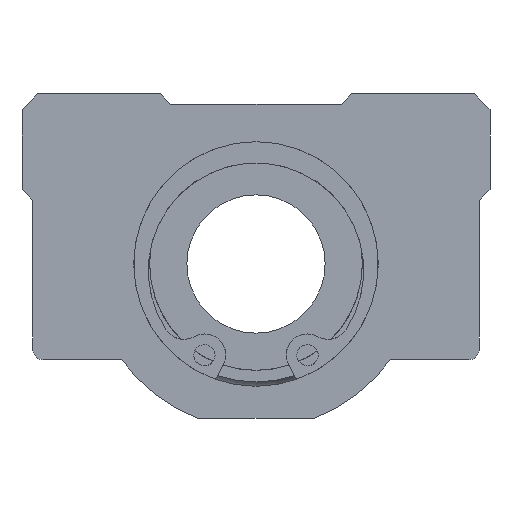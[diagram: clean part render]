
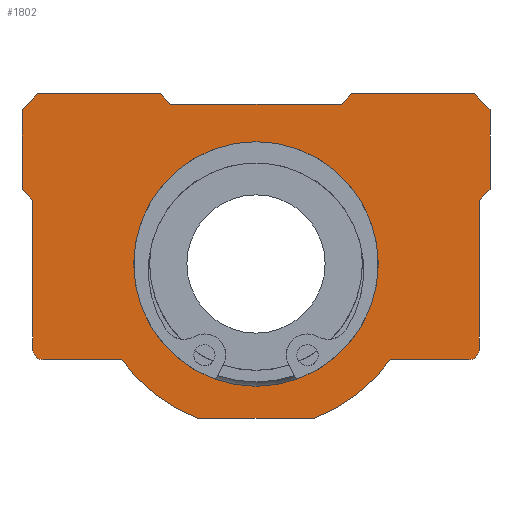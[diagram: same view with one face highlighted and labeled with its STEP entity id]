
A CAD part, left-side view. The second image highlights one B-rep face of the part: STEP entity #1802.
In plain terms, the highlighted planar face has unit normal (-1, 0, 0).
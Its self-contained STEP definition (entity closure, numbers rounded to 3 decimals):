
#1370=CARTESIAN_POINT('',(0.0,20.,-9.));
#1371=VERTEX_POINT('',#1370);
#1378=CARTESIAN_POINT('',(0.0,21.,-8.));
#1379=VERTEX_POINT('',#1378);
#1380=CARTESIAN_POINT('',(0.0,20.,-8.));
#1381=DIRECTION('',(1.0,0.0,0.0));
#1382=DIRECTION('',(0.0,0.707,-0.707));
#1383=AXIS2_PLACEMENT_3D('',#1380,#1381,#1382);
#1384=CIRCLE('',#1383,1.);
#1385=EDGE_CURVE('',#1371,#1379,#1384,.T.);
#1410=CARTESIAN_POINT('',(0.0,12.619,-9.));
#1411=VERTEX_POINT('',#1410);
#1418=CARTESIAN_POINT('',(0.0,12.619,-9.));
#1419=DIRECTION('',(0.0,1.0,0.0));
#1420=VECTOR('',#1419,7.381);
#1421=LINE('',#1418,#1420);
#1422=EDGE_CURVE('',#1411,#1371,#1421,.T.);
#1621=CARTESIAN_POINT('',(0.0,-21.,-8.));
#1622=VERTEX_POINT('',#1621);
#1629=CARTESIAN_POINT('',(0.0,-20.,-9.));
#1630=VERTEX_POINT('',#1629);
#1631=CARTESIAN_POINT('',(0.0,-20.,-8.));
#1632=DIRECTION('',(1.0,0.0,0.0));
#1633=DIRECTION('',(0.0,-0.707,-0.707));
#1634=AXIS2_PLACEMENT_3D('',#1631,#1632,#1633);
#1635=CIRCLE('',#1634,1.);
#1636=EDGE_CURVE('',#1622,#1630,#1635,.T.);
#1647=CARTESIAN_POINT('',(0.0,0.,2.054));
#1648=DIRECTION('',(1.0,0.0,0.0));
#1649=DIRECTION('',(0.0,0.0,-1.0));
#1650=AXIS2_PLACEMENT_3D('',#1647,#1648,#1649);
#1651=PLANE('',#1650);
#1652=ORIENTED_EDGE('',*,*,#1385,.F.);
#1653=ORIENTED_EDGE('',*,*,#1422,.F.);
#1654=CARTESIAN_POINT('',(0.0,5.477,-14.5));
#1655=VERTEX_POINT('',#1654);
#1656=CARTESIAN_POINT('',(0.0,0.0,0.0));
#1657=DIRECTION('',(1.0,0.0,0.0));
#1658=DIRECTION('',(0.0,0.353,-0.935));
#1659=AXIS2_PLACEMENT_3D('',#1656,#1657,#1658);
#1660=CIRCLE('',#1659,15.5);
#1661=EDGE_CURVE('',#1655,#1411,#1660,.T.);
#1662=ORIENTED_EDGE('',*,*,#1661,.F.);
#1663=CARTESIAN_POINT('',(0.0,-5.477,-14.5));
#1664=VERTEX_POINT('',#1663);
#1665=CARTESIAN_POINT('',(0.0,-5.477,-14.5));
#1666=DIRECTION('',(0.0,1.0,0.0));
#1667=VECTOR('',#1666,10.954);
#1668=LINE('',#1665,#1667);
#1669=EDGE_CURVE('',#1664,#1655,#1668,.T.);
#1670=ORIENTED_EDGE('',*,*,#1669,.F.);
#1671=CARTESIAN_POINT('',(0.0,-12.619,-9.));
#1672=VERTEX_POINT('',#1671);
#1673=CARTESIAN_POINT('',(0.0,0.0,0.0));
#1674=DIRECTION('',(1.0,0.0,0.0));
#1675=DIRECTION('',(0.0,0.353,-0.935));
#1676=AXIS2_PLACEMENT_3D('',#1673,#1674,#1675);
#1677=CIRCLE('',#1676,15.5);
#1678=EDGE_CURVE('',#1672,#1664,#1677,.T.);
#1679=ORIENTED_EDGE('',*,*,#1678,.F.);
#1680=CARTESIAN_POINT('',(0.0,-20.,-9.));
#1681=DIRECTION('',(0.0,1.0,0.0));
#1682=VECTOR('',#1681,7.381);
#1683=LINE('',#1680,#1682);
#1684=EDGE_CURVE('',#1630,#1672,#1683,.T.);
#1685=ORIENTED_EDGE('',*,*,#1684,.F.);
#1686=ORIENTED_EDGE('',*,*,#1636,.F.);
#1687=CARTESIAN_POINT('',(0.0,-21.,6.));
#1688=VERTEX_POINT('',#1687);
#1689=CARTESIAN_POINT('',(0.0,-21.,6.));
#1690=DIRECTION('',(0.0,0.0,-1.0));
#1691=VECTOR('',#1690,14.0);
#1692=LINE('',#1689,#1691);
#1693=EDGE_CURVE('',#1688,#1622,#1692,.T.);
#1694=ORIENTED_EDGE('',*,*,#1693,.F.);
#1695=CARTESIAN_POINT('',(0.0,-22.0,7.));
#1696=VERTEX_POINT('',#1695);
#1697=CARTESIAN_POINT('',(0.0,-22.0,7.));
#1698=DIRECTION('',(0.0,0.707,-0.707));
#1699=VECTOR('',#1698,1.414);
#1700=LINE('',#1697,#1699);
#1701=EDGE_CURVE('',#1696,#1688,#1700,.T.);
#1702=ORIENTED_EDGE('',*,*,#1701,.F.);
#1703=CARTESIAN_POINT('',(0.0,-22.0,14.5));
#1704=VERTEX_POINT('',#1703);
#1705=CARTESIAN_POINT('',(0.0,-22.0,14.5));
#1706=DIRECTION('',(0.0,0.0,-1.0));
#1707=VECTOR('',#1706,7.5);
#1708=LINE('',#1705,#1707);
#1709=EDGE_CURVE('',#1704,#1696,#1708,.T.);
#1710=ORIENTED_EDGE('',*,*,#1709,.F.);
#1711=CARTESIAN_POINT('',(0.0,-20.5,16.));
#1712=VERTEX_POINT('',#1711);
#1713=CARTESIAN_POINT('',(0.0,-20.5,16.));
#1714=DIRECTION('',(0.0,-0.707,-0.707));
#1715=VECTOR('',#1714,2.121);
#1716=LINE('',#1713,#1715);
#1717=EDGE_CURVE('',#1712,#1704,#1716,.T.);
#1718=ORIENTED_EDGE('',*,*,#1717,.F.);
#1719=CARTESIAN_POINT('',(0.0,-9.0,16.));
#1720=VERTEX_POINT('',#1719);
#1721=CARTESIAN_POINT('',(0.0,-9.0,16.));
#1722=DIRECTION('',(0.0,-1.0,0.0));
#1723=VECTOR('',#1722,11.5);
#1724=LINE('',#1721,#1723);
#1725=EDGE_CURVE('',#1720,#1712,#1724,.T.);
#1726=ORIENTED_EDGE('',*,*,#1725,.F.);
#1727=CARTESIAN_POINT('',(0.0,-8.,15.));
#1728=VERTEX_POINT('',#1727);
#1729=CARTESIAN_POINT('',(0.0,-8.,15.));
#1730=DIRECTION('',(0.0,-0.707,0.707));
#1731=VECTOR('',#1730,1.414);
#1732=LINE('',#1729,#1731);
#1733=EDGE_CURVE('',#1728,#1720,#1732,.T.);
#1734=ORIENTED_EDGE('',*,*,#1733,.F.);
#1735=CARTESIAN_POINT('',(0.0,8.0,15.));
#1736=VERTEX_POINT('',#1735);
#1737=CARTESIAN_POINT('',(0.0,8.0,15.));
#1738=DIRECTION('',(0.0,-1.0,0.0));
#1739=VECTOR('',#1738,16.);
#1740=LINE('',#1737,#1739);
#1741=EDGE_CURVE('',#1736,#1728,#1740,.T.);
#1742=ORIENTED_EDGE('',*,*,#1741,.F.);
#1743=CARTESIAN_POINT('',(0.0,9.0,16.));
#1744=VERTEX_POINT('',#1743);
#1745=CARTESIAN_POINT('',(0.0,9.0,16.));
#1746=DIRECTION('',(0.0,-0.707,-0.707));
#1747=VECTOR('',#1746,1.414);
#1748=LINE('',#1745,#1747);
#1749=EDGE_CURVE('',#1744,#1736,#1748,.T.);
#1750=ORIENTED_EDGE('',*,*,#1749,.F.);
#1751=CARTESIAN_POINT('',(0.0,20.5,16.));
#1752=VERTEX_POINT('',#1751);
#1753=CARTESIAN_POINT('',(0.0,20.5,16.));
#1754=DIRECTION('',(0.0,-1.0,0.0));
#1755=VECTOR('',#1754,11.5);
#1756=LINE('',#1753,#1755);
#1757=EDGE_CURVE('',#1752,#1744,#1756,.T.);
#1758=ORIENTED_EDGE('',*,*,#1757,.F.);
#1759=CARTESIAN_POINT('',(0.0,22.0,14.5));
#1760=VERTEX_POINT('',#1759);
#1761=CARTESIAN_POINT('',(0.0,22.0,14.5));
#1762=DIRECTION('',(0.0,-0.707,0.707));
#1763=VECTOR('',#1762,2.121);
#1764=LINE('',#1761,#1763);
#1765=EDGE_CURVE('',#1760,#1752,#1764,.T.);
#1766=ORIENTED_EDGE('',*,*,#1765,.F.);
#1767=CARTESIAN_POINT('',(0.0,22.0,7.));
#1768=VERTEX_POINT('',#1767);
#1769=CARTESIAN_POINT('',(0.0,22.0,7.));
#1770=DIRECTION('',(0.0,0.0,1.0));
#1771=VECTOR('',#1770,7.5);
#1772=LINE('',#1769,#1771);
#1773=EDGE_CURVE('',#1768,#1760,#1772,.T.);
#1774=ORIENTED_EDGE('',*,*,#1773,.F.);
#1775=CARTESIAN_POINT('',(0.0,21.,6.));
#1776=VERTEX_POINT('',#1775);
#1777=CARTESIAN_POINT('',(0.0,21.,6.));
#1778=DIRECTION('',(0.0,0.707,0.707));
#1779=VECTOR('',#1778,1.414);
#1780=LINE('',#1777,#1779);
#1781=EDGE_CURVE('',#1776,#1768,#1780,.T.);
#1782=ORIENTED_EDGE('',*,*,#1781,.F.);
#1783=CARTESIAN_POINT('',(0.0,21.,-8.));
#1784=DIRECTION('',(0.0,0.0,1.0));
#1785=VECTOR('',#1784,14.);
#1786=LINE('',#1783,#1785);
#1787=EDGE_CURVE('',#1379,#1776,#1786,.T.);
#1788=ORIENTED_EDGE('',*,*,#1787,.F.);
#1789=EDGE_LOOP('',(#1652,#1653,#1662,#1670,#1679,#1685,#1686,#1694,#1702,#1710,#1718,#1726,#1734,#1742,#1750,#1758,#1766,#1774,#1782,#1788));
#1790=FACE_OUTER_BOUND('',#1789,.T.);
#1791=CARTESIAN_POINT('',(0.0,11.5,0.));
#1792=VERTEX_POINT('',#1791);
#1793=CARTESIAN_POINT('',(0.0,0.0,0.0));
#1794=DIRECTION('',(1.0,0.0,0.0));
#1795=DIRECTION('',(0.0,-1.0,0.0));
#1796=AXIS2_PLACEMENT_3D('',#1793,#1794,#1795);
#1797=CIRCLE('',#1796,11.5);
#1798=EDGE_CURVE('',#1792,#1792,#1797,.T.);
#1799=ORIENTED_EDGE('',*,*,#1798,.T.);
#1800=EDGE_LOOP('',(#1799));
#1801=FACE_BOUND('',#1800,.T.);
#1802=ADVANCED_FACE('',(#1790,#1801),#1651,.F.);
